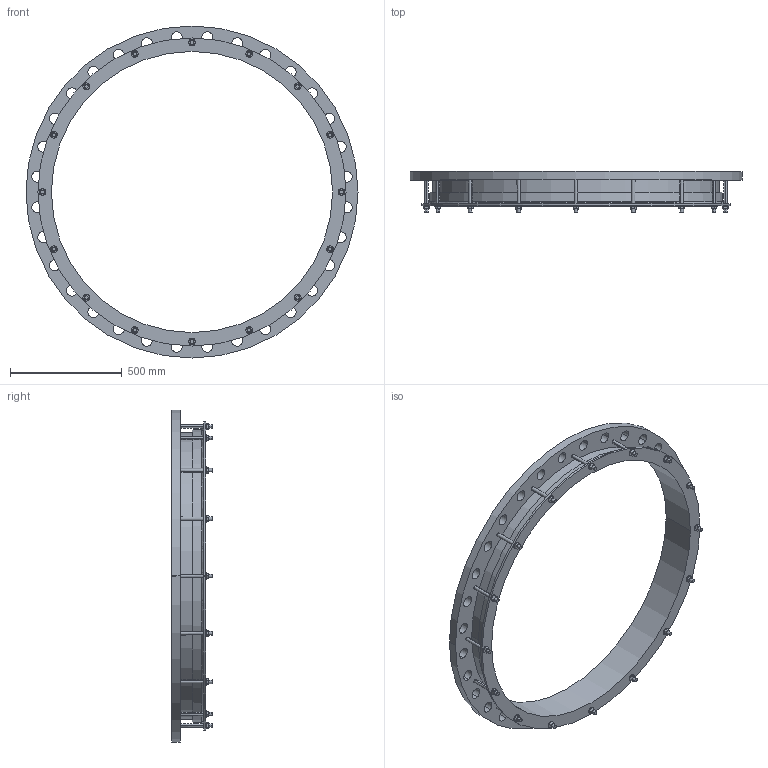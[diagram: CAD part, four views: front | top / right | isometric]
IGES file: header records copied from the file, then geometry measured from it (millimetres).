
Start section:  PTC IGES file: 1255x1200pn16.igs
Global section: file name: 1255x1200pn16.igs; native system: Creo Parametric by PTC Inc.; preprocessor: 2016130; author: mfairey; organization: Unknown; date: 20190117.140937; units: millimetre
Bounding box: 1485 x 182 x 1485 mm (x, y, z)
Surface area: 2785439.6 mm2 (no closed solid volume)
Topology: 0 solids, 0 shells, 322 faces, 1708 edges, 1708 vertices
Faces by surface type: revolution 174, bspline 148
